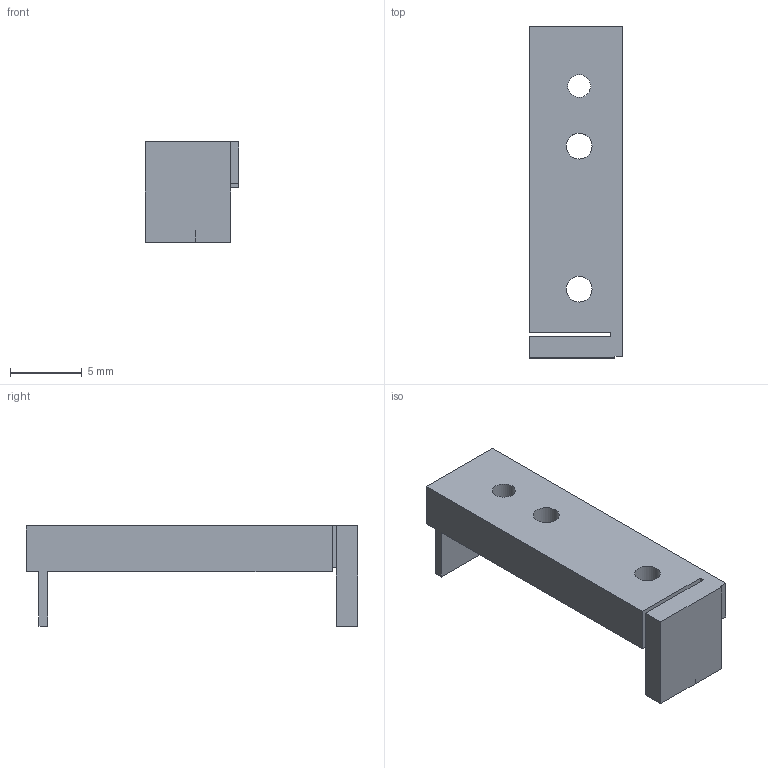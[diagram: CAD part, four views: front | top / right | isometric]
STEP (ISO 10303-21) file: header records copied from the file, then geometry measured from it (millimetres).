
FILE_DESCRIPTION(('Open CASCADE Model'),'2;1');
FILE_NAME('Open CASCADE Shape Model','2026-09-06T11:38:53',('Author'),( 'Open CASCADE'),'Open CASCADE STEP processor 7.7','Open CASCADE 7.7' ,'Unknown');
FILE_SCHEMA(('AUTOMOTIVE_DESIGN { 1 0 10303 214 1 1 1 1 }'));
Length unit declared in the file: millimetre
Products named in the file (1): Open CASCADE STEP translator 7.7 14
Bounding box: 6.55 x 23.2 x 7 mm (x, y, z)
Volume: 475.2 mm3; surface area: 685.6 mm2
Topology: 1 solids, 1 shells, 27 faces, 69 edges, 46 vertices
Faces by surface type: plane 21, cylinder 6
Full cylindrical faces by diameter (mm): 1.6 x1, 1.8 x2, 3.6 x2
Entity records: 1738 total; most frequent: CARTESIAN_POINT 349, DIRECTION 247, LINE 163, VECTOR 163, ORIENTED_EDGE 138, PCURVE 138, DEFINITIONAL_REPRESENTATION 138, EDGE_CURVE 69
